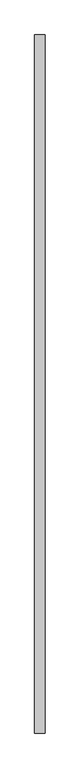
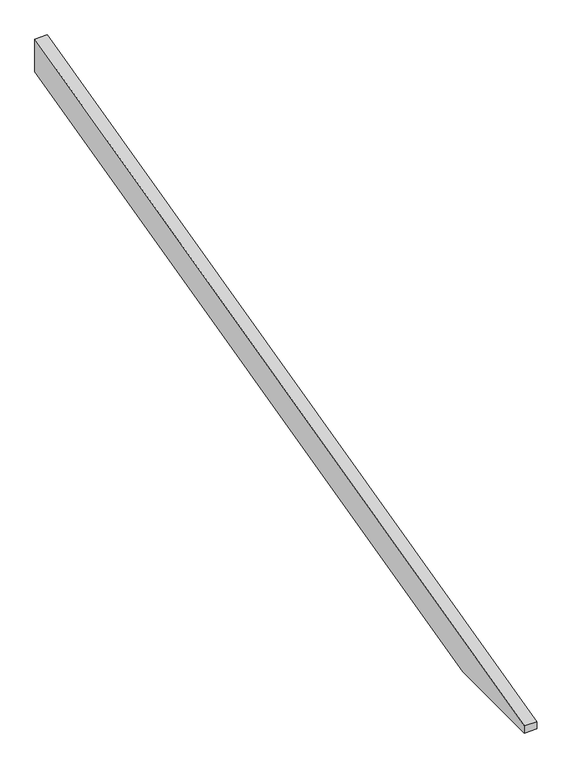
"""IFC4 building model written with IfcOpenShell, lengths in millimetres: proxy geometry, Modelos genéricos 129 : Modelos genéricos 12."""

from ifc_helpers import new_model, si_unit, frame, origin, place, context, project, spatial, polyline, outline, extrude, source, transform, mapped, element, save


def generic_models_1d64b13f(model_context):
    return source(origin(), model_context, "Body", "SweptSolid", [
        extrude(outline(polyline([(-2181.3761835, 3197.4798401), (1878.6238165, 4209.7515316), (1878.6238165, 4044.8533509), (-1670.3291324, 3160.0), (-2181.3761835, 3160.0), (-2181.3761835, 3197.4798401)])), frame((9223.4472467, 0.0, 0.0), z_axis=(1.0, 0.0, 0.0), x_axis=(0.0, 1.0, 0.0)), (0.0, 0.0, 1.0), 60.0),
    ])


if __name__ == "__main__":
    model = new_model("IFC4")
    model_context = context("Model", 3, world=origin())
    ifc_project = project(units=[si_unit("LENGTHUNIT", "METRE", prefix="MILLI")], contexts=[model_context])
    site = spatial("IfcSite", under=ifc_project)
    building = spatial("IfcBuilding", under=site)
    placement = place(None, origin())
    generic_models_shape = generic_models_1d64b13f(model_context)
    element("IfcBuildingElementProxy", 1, Name="Modelos genéricos 129 : Modelos genéricos 12", ObjectType="Modelos genéricos 129 : Modelos genéricos 12", at=placement, inside=building, context=model_context, shape_type="MappedRepresentation", body=[
        mapped(generic_models_shape, transform((0.0, 0.0, 0.0), x_axis=(1.0, 0.0, 0.0), y_axis=(0.0, 1.0, 0.0), z_axis=(0.0, 0.0, 1.0))),
    ])
    save(model, "model.ifc")
